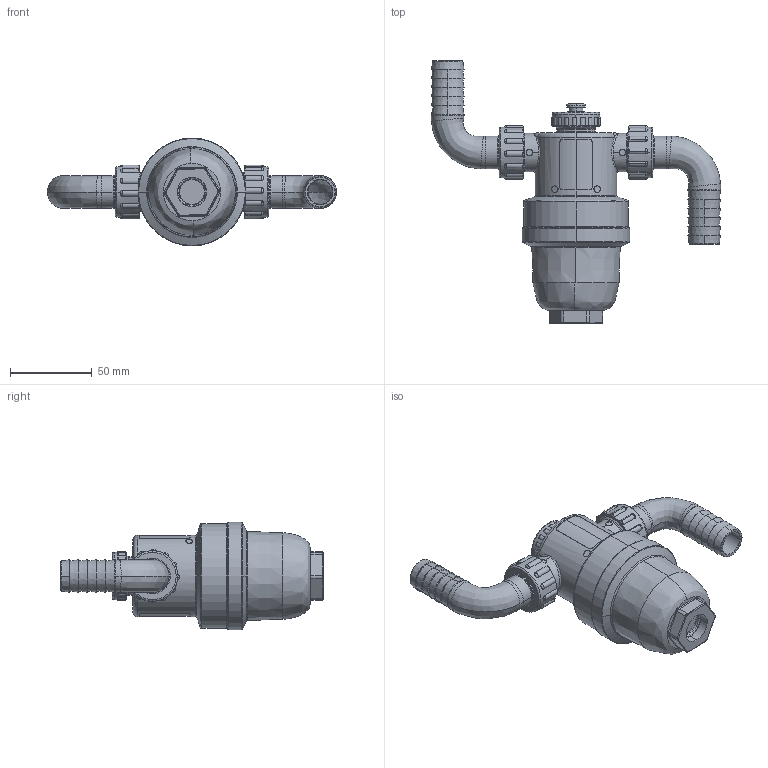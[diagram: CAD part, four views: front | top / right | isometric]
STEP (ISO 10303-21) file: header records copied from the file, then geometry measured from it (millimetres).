
FILE_DESCRIPTION (( 'STEP AP214' ), '1' );
FILE_NAME ('AB0020M034.STEP', '2022-07-21T09:12:24', ( '' ), ( '' ), 'SwSTEP 2.0', 'SolidWorks 2022', '' );
FILE_SCHEMA (( 'AUTOMOTIVE_DESIGN' ));
Length unit declared in the file: millimetre
Products named in the file (1): AB0020M034
Bounding box: 177.02 x 160.6 x 66 mm (x, y, z)
Surface area: 93096 mm2 (no closed solid volume)
Topology: 0 solids, 54 shells, 8303 faces, 24711 edges, 16492 vertices
Faces by surface type: plane 7610, cylinder 364, torus 177, cone 112, bspline 40
Entity records: 292007 total; most frequent: CARTESIAN_POINT 110014, ORIENTED_EDGE 45416, DIRECTION 26199, EDGE_CURVE 24707, VERTEX_POINT 16492, EDGE_LOOP 11155, AXIS2_PLACEMENT_3D 9110, ADVANCED_FACE 8303
